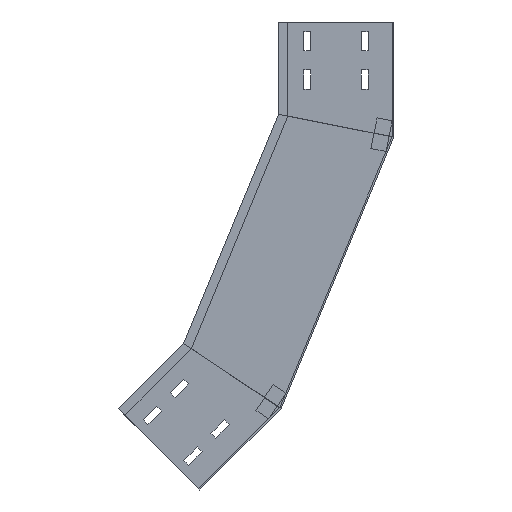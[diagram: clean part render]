
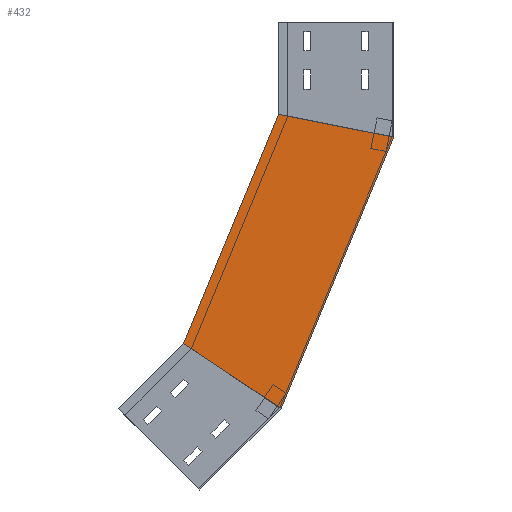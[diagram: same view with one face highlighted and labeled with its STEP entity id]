
A CAD part, left-side view. The second image highlights one B-rep face of the part: STEP entity #432.
In plain terms, the highlighted planar face has unit normal (-1, 0, 0) as drawn and (1, 0, 0) by its records, which use the part's own axes.
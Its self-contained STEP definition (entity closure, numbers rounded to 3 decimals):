
#1 = DIRECTION ( 'NONE',  ( 0., -0.831, -0.556 ) ) ;
#9 = CARTESIAN_POINT ( 'NONE',  ( 0., 273.732, -418.878 ) ) ;
#96 = DIRECTION ( 'NONE',  ( -1., 0., 0. ) ) ;
#185 = EDGE_CURVE ( 'NONE', #916, #618, #1304, .T. ) ;
#253 = FACE_OUTER_BOUND ( 'NONE', #610, .T. ) ;
#309 = CARTESIAN_POINT ( 'NONE',  ( 0., 138.582, -92.597 ) ) ;
#337 = LINE ( 'NONE', #479, #1409 ) ;
#352 = CARTESIAN_POINT ( 'NONE',  ( 0., 0., -150. ) ) ;
#432 = ADVANCED_FACE ( 'NONE', ( #253 ), #881, .F. ) ;
#479 = CARTESIAN_POINT ( 'NONE',  ( 0., 208.695, -462.334 ) ) ;
#548 = AXIS2_PLACEMENT_3D ( 'NONE', #1513, #96, #724 ) ;
#610 = EDGE_LOOP ( 'NONE', ( #1955, #1020, #1253, #992 ) ) ;
#618 = VERTEX_POINT ( 'NONE', #1310 ) ;
#724 = DIRECTION ( 'NONE',  ( 0., 0., 1. ) ) ;
#781 = CARTESIAN_POINT ( 'NONE',  ( 0., 150., -120.163 ) ) ;
#876 = VECTOR ( 'NONE', #1927, 1000. ) ;
#881 = PLANE ( 'NONE',  #548 ) ;
#898 = DIRECTION ( 'NONE',  ( 0., -0.981, -0.195 ) ) ;
#916 = VERTEX_POINT ( 'NONE', #937 ) ;
#922 = LINE ( 'NONE', #309, #1148 ) ;
#923 = LINE ( 'NONE', #1553, #1476 ) ;
#937 = CARTESIAN_POINT ( 'NONE',  ( 0., 0., -150. ) ) ;
#992 = ORIENTED_EDGE ( 'NONE', *, *, #1890, .F. ) ;
#1020 = ORIENTED_EDGE ( 'NONE', *, *, #1540, .T. ) ;
#1025 = VERTEX_POINT ( 'NONE', #9 ) ;
#1148 = VECTOR ( 'NONE', #1841, 1000. ) ;
#1253 = ORIENTED_EDGE ( 'NONE', *, *, #185, .T. ) ;
#1264 = VERTEX_POINT ( 'NONE', #781 ) ;
#1304 = LINE ( 'NONE', #352, #876 ) ;
#1308 = EDGE_CURVE ( 'NONE', #1264, #1025, #922, .T. ) ;
#1310 = CARTESIAN_POINT ( 'NONE',  ( 0., 146.568, -503.846 ) ) ;
#1409 = VECTOR ( 'NONE', #1, 1000. ) ;
#1476 = VECTOR ( 'NONE', #898, 1000. ) ;
#1513 = CARTESIAN_POINT ( 'NONE',  ( 0., 0., -150. ) ) ;
#1540 = EDGE_CURVE ( 'NONE', #1264, #916, #923, .T. ) ;
#1553 = CARTESIAN_POINT ( 'NONE',  ( 0., 28.701, -144.291 ) ) ;
#1841 = DIRECTION ( 'NONE',  ( 0., 0.383, -0.924 ) ) ;
#1890 = EDGE_CURVE ( 'NONE', #1025, #618, #337, .T. ) ;
#1927 = DIRECTION ( 'NONE',  ( 0., 0.383, -0.924 ) ) ;
#1955 = ORIENTED_EDGE ( 'NONE', *, *, #1308, .F. ) ;
